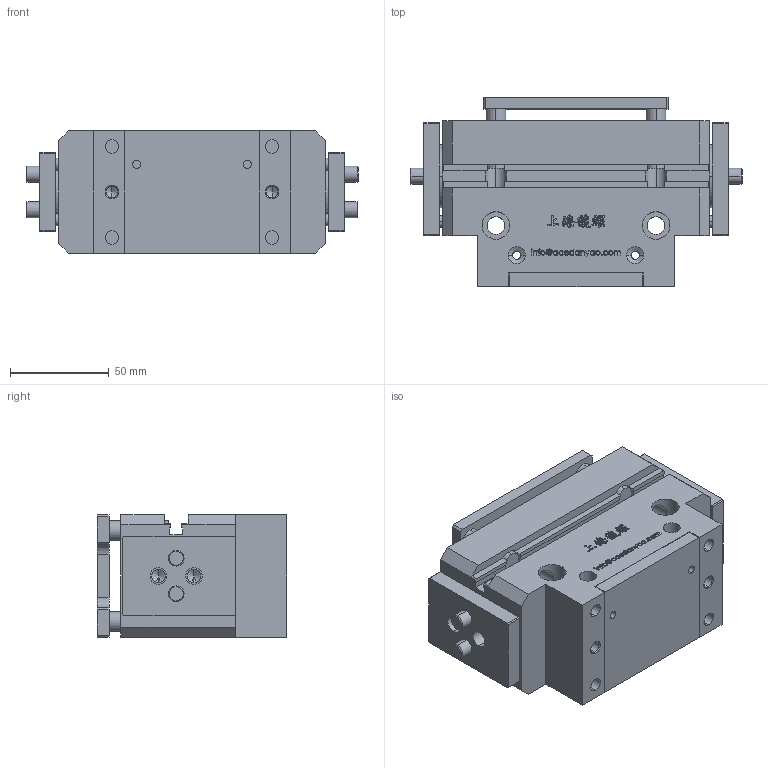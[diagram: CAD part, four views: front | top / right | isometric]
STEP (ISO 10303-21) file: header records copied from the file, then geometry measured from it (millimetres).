
FILE_DESCRIPTION (( 'STEP AP203' ), '1' );
FILE_NAME ('SRO-125-P-原始檔-組合-W106.04.21.STEP', '2017-04-20T09:17:49', ( 'DanyaoCAD' ), ( '' ), 'SwSTEP 2.0', 'SolidWorks 2016', '' );
FILE_SCHEMA (( 'CONFIG_CONTROL_DESIGN' ));
Length unit declared in the file: millimetre
Products named in the file (5): Griffa; Corpo; Piattello; SRO-125-P-原始檔-組合-W106.04.21; Fondello
Assembly tree (5 placements, depth 2):
  SRO-125-P-原始檔-組合-W106.04.21
    Fondello
    Griffa  x2
    Corpo
    Piattello
Bounding box: 168 x 96 x 62 mm (x, y, z)
Volume: 655289.6 mm3; surface area: 132380.9 mm2
Topology: 5 solids, 5 shells, 1066 faces, 2934 edges, 1936 vertices
Faces by surface type: bspline 640, plane 280, cylinder 110, cone 36
Entity records: 49917 total; most frequent: CARTESIAN_POINT 27465, ORIENTED_EDGE 5656, EDGE_CURVE 2828, DIRECTION 2514, VERTEX_POINT 1878, LINE 1316, VECTOR 1316, B_SPLINE_CURVE_WITH_KNOTS 1304
